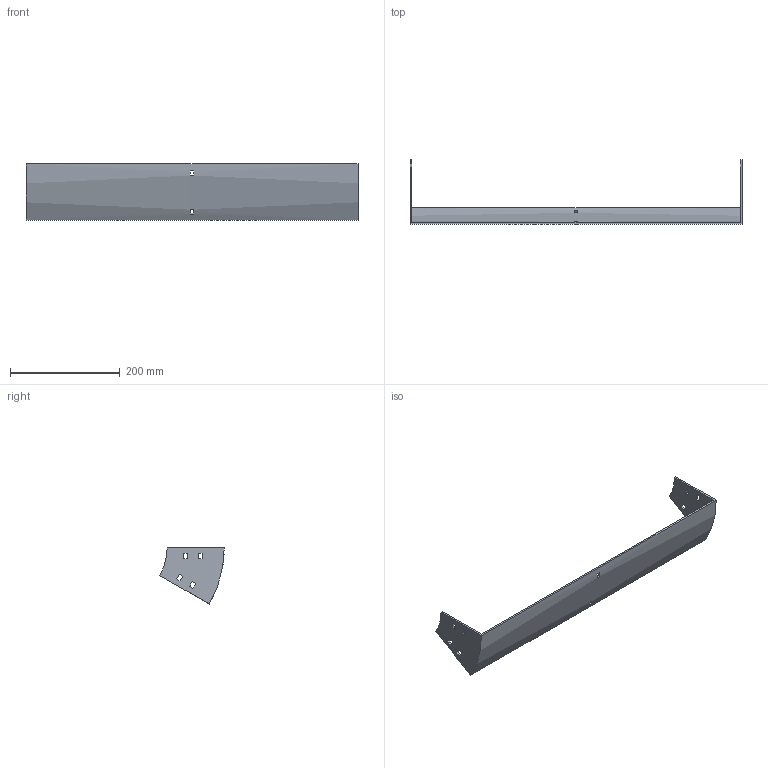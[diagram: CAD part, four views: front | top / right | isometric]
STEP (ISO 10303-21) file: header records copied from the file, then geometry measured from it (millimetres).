
FILE_DESCRIPTION (( 'STEP AP214' ), '1' );
FILE_NAME ('32B1D600.step', '2025-02-21T09:42:46', ( '' ), ( '' ), 'SwSTEP 2.0', 'SolidWorks 2023', '' );
FILE_SCHEMA (( 'AUTOMOTIVE_DESIGN' ));
Length unit declared in the file: millimetre
Products named in the file (1): 32B1D600
Bounding box: 604 x 117.4 x 102 mm (x, y, z)
Volume: 276842 mm3; surface area: 165373.1 mm2
Topology: 1 solids, 1 shells, 50 faces, 144 edges, 96 vertices
Faces by surface type: plane 46, cylinder 4
Entity records: 1687 total; most frequent: CARTESIAN_POINT 291, ORIENTED_EDGE 288, DIRECTION 262, EDGE_CURVE 144, VECTOR 128, LINE 128, VERTEX_POINT 96, EDGE_LOOP 70
